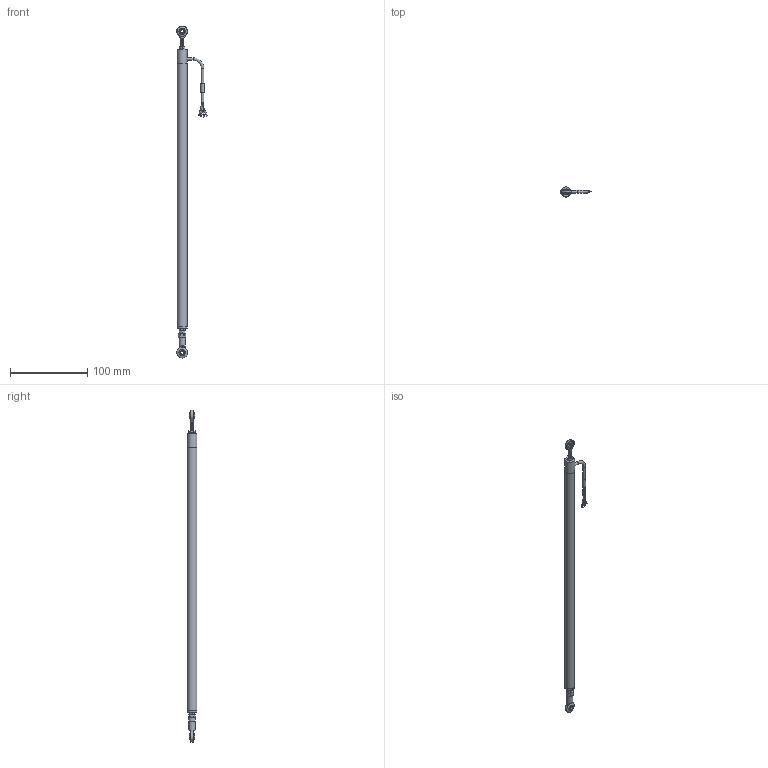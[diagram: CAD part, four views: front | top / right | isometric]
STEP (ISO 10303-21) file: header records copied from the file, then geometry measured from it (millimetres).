
FILE_DESCRIPTION(/* description */ (''),/* implementation_level */ '2;1');
FILE_NAME(/* name */ 'LPPS-12-300-R Assembly (wrapped).step',/* time_stamp */ '2023-10-10T14:08:24-04:00',/* author */ ('TSC_Grant'),/* organization */ (''),/* preprocessor_version */ 'ST-DEVELOPER v19.2',/* originating_system */ 'Autodesk Inventor 2024',/* authorisation */ '');
FILE_SCHEMA (('AUTOMOTIVE_DESIGN { 1 0 10303 214 3 1 1 }'));
Length unit declared in the file: inch
Products named in the file (4): LPPS-12-010-R Assembly (wrapped); LPPS-12-010-R Body (wrapped); LPPS-12-010-R Spoiler (wrapped); Wire
Assembly tree (3 placements, depth 2):
  LPPS-12-010-R Assembly (wrapped)
    LPPS-12-010-R Body (wrapped)
    LPPS-12-010-R Spoiler (wrapped)
    Wire
Bounding box: 39.48 x 12.7 x 430.7 mm (x, y, z)
Volume: 48792.9 mm3; surface area: 26829.2 mm2
Topology: 13 solids, 13 shells, 200 faces, 462 edges, 306 vertices
Faces by surface type: plane 94, cylinder 74, bspline 21, torus 7, sphere 4
Full cylindrical faces by diameter (mm): 1.016 x3, 1.27 x1, 1.524 x3, 1.651 x2, 3.632 x5, 3.937 x14, 4.14 x2, 4.191 x1, 4.445 x1, 6.604 x1, 8.001 x1, 12.7 x3
Entity records: 9563 total; most frequent: CARTESIAN_POINT 4694, ORIENTED_EDGE 924, DIRECTION 895, EDGE_CURVE 462, AXIS2_PLACEMENT_3D 345, VERTEX_POINT 306, EDGE_LOOP 228, LINE 205
